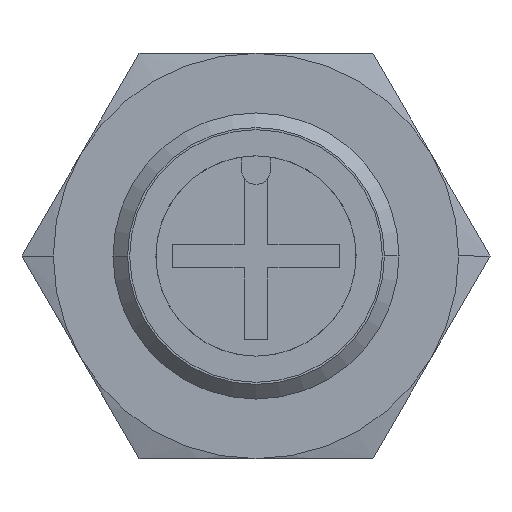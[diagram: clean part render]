
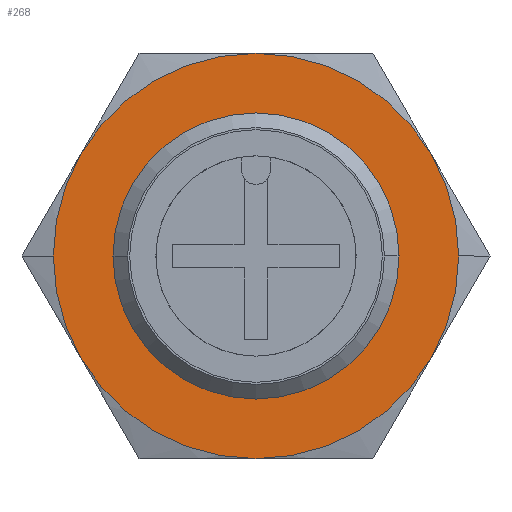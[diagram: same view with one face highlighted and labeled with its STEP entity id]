
A CAD part, left-side view. The second image highlights one B-rep face of the part: STEP entity #268.
In plain terms, the highlighted planar face has unit normal (-1, 0, 0).
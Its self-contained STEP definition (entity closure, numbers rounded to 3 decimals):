
#268 = ADVANCED_FACE( '', ( #503, #504 ), #505, .T. );
#503 = FACE_BOUND( '', #771, .T. );
#504 = FACE_OUTER_BOUND( '', #772, .T. );
#505 = PLANE( '', #773 );
#771 = EDGE_LOOP( '', ( #1567, #1568 ) );
#772 = EDGE_LOOP( '', ( #1569, #1570, #1571, #1572, #1573, #1574, #1575, #1576 ) );
#773 = AXIS2_PLACEMENT_3D( '', #1577, #1578, #1579 );
#1567 = ORIENTED_EDGE( '', *, *, #2022, .T. );
#1568 = ORIENTED_EDGE( '', *, *, #1960, .T. );
#1569 = ORIENTED_EDGE( '', *, *, #2018, .T. );
#1570 = ORIENTED_EDGE( '', *, *, #1971, .T. );
#1571 = ORIENTED_EDGE( '', *, *, #2013, .T. );
#1572 = ORIENTED_EDGE( '', *, *, #2014, .T. );
#1573 = ORIENTED_EDGE( '', *, *, #1973, .T. );
#1574 = ORIENTED_EDGE( '', *, *, #2015, .T. );
#1575 = ORIENTED_EDGE( '', *, *, #2016, .T. );
#1576 = ORIENTED_EDGE( '', *, *, #2017, .T. );
#1577 = CARTESIAN_POINT( '', ( 38.5, 4.25, 0. ) );
#1578 = DIRECTION( '', ( -1., 0., 0. ) );
#1579 = DIRECTION( '', ( 0., 1., 0. ) );
#1960 = EDGE_CURVE( '', #2354, #2351, #2355, .T. );
#1971 = EDGE_CURVE( '', #2370, #2372, #2374, .T. );
#1973 = EDGE_CURVE( '', #2378, #2375, #2379, .T. );
#2013 = EDGE_CURVE( '', #2372, #2398, #2441, .T. );
#2014 = EDGE_CURVE( '', #2398, #2378, #2442, .T. );
#2015 = EDGE_CURVE( '', #2375, #2429, #2443, .T. );
#2016 = EDGE_CURVE( '', #2429, #2421, #2444, .T. );
#2017 = EDGE_CURVE( '', #2421, #2408, #2445, .T. );
#2018 = EDGE_CURVE( '', #2408, #2370, #2446, .T. );
#2022 = EDGE_CURVE( '', #2351, #2354, #2450, .T. );
#2351 = VERTEX_POINT( '', #3037 );
#2354 = VERTEX_POINT( '', #3041 );
#2355 = CIRCLE( '', #3042, 6. );
#2370 = VERTEX_POINT( '', #3062 );
#2372 = VERTEX_POINT( '', #3065 );
#2374 = CIRCLE( '', #3076, 8.5 );
#2375 = VERTEX_POINT( '', #3077 );
#2378 = VERTEX_POINT( '', #3081 );
#2379 = CIRCLE( '', #3082, 8.5 );
#2398 = VERTEX_POINT( '', #3140 );
#2408 = VERTEX_POINT( '', #3188 );
#2421 = VERTEX_POINT( '', #3265 );
#2429 = VERTEX_POINT( '', #3310 );
#2441 = CIRCLE( '', #3359, 8.5 );
#2442 = CIRCLE( '', #3360, 8.5 );
#2443 = CIRCLE( '', #3361, 8.5 );
#2444 = CIRCLE( '', #3362, 8.5 );
#2445 = CIRCLE( '', #3363, 8.5 );
#2446 = CIRCLE( '', #3364, 8.5 );
#2450 = CIRCLE( '', #3368, 6. );
#3037 = CARTESIAN_POINT( '', ( 38.5, 6., 0. ) );
#3041 = CARTESIAN_POINT( '', ( 38.5, -6., 0. ) );
#3042 = AXIS2_PLACEMENT_3D( '', #3985, #3986, #3987 );
#3062 = CARTESIAN_POINT( '', ( 38.5, 8.5, 0. ) );
#3065 = CARTESIAN_POINT( '', ( 38.5, 7.361, -4.25 ) );
#3076 = AXIS2_PLACEMENT_3D( '', #4003, #4004, #4005 );
#3077 = CARTESIAN_POINT( '', ( 38.5, -8.5, 0. ) );
#3081 = CARTESIAN_POINT( '', ( 38.5, -7.361, -4.25 ) );
#3082 = AXIS2_PLACEMENT_3D( '', #4007, #4008, #4009 );
#3140 = CARTESIAN_POINT( '', ( 38.5, 0., -8.5 ) );
#3188 = CARTESIAN_POINT( '', ( 38.5, 7.361, 4.25 ) );
#3265 = CARTESIAN_POINT( '', ( 38.5, 0., 8.5 ) );
#3310 = CARTESIAN_POINT( '', ( 38.5, -7.361, 4.25 ) );
#3359 = AXIS2_PLACEMENT_3D( '', #4042, #4043, #4044 );
#3360 = AXIS2_PLACEMENT_3D( '', #4045, #4046, #4047 );
#3361 = AXIS2_PLACEMENT_3D( '', #4048, #4049, #4050 );
#3362 = AXIS2_PLACEMENT_3D( '', #4051, #4052, #4053 );
#3363 = AXIS2_PLACEMENT_3D( '', #4054, #4055, #4056 );
#3364 = AXIS2_PLACEMENT_3D( '', #4057, #4058, #4059 );
#3368 = AXIS2_PLACEMENT_3D( '', #4069, #4070, #4071 );
#3985 = CARTESIAN_POINT( '', ( 38.5, 0., 0. ) );
#3986 = DIRECTION( '', ( 1., 0., 0. ) );
#3987 = DIRECTION( '', ( 0., 1., 0. ) );
#4003 = CARTESIAN_POINT( '', ( 38.5, 0., 0. ) );
#4004 = DIRECTION( '', ( -1., 0., 0. ) );
#4005 = DIRECTION( '', ( 0., 1., 0. ) );
#4007 = CARTESIAN_POINT( '', ( 38.5, 0., 0. ) );
#4008 = DIRECTION( '', ( -1., 0., 0. ) );
#4009 = DIRECTION( '', ( 0., 1., 0. ) );
#4042 = CARTESIAN_POINT( '', ( 38.5, 0., 0. ) );
#4043 = DIRECTION( '', ( -1., 0., 0. ) );
#4044 = DIRECTION( '', ( 0., 1., 0. ) );
#4045 = CARTESIAN_POINT( '', ( 38.5, 0., 0. ) );
#4046 = DIRECTION( '', ( -1., 0., 0. ) );
#4047 = DIRECTION( '', ( 0., 1., 0. ) );
#4048 = CARTESIAN_POINT( '', ( 38.5, 0., 0. ) );
#4049 = DIRECTION( '', ( -1., 0., 0. ) );
#4050 = DIRECTION( '', ( 0., 1., 0. ) );
#4051 = CARTESIAN_POINT( '', ( 38.5, 0., 0. ) );
#4052 = DIRECTION( '', ( -1., 0., 0. ) );
#4053 = DIRECTION( '', ( 0., 1., 0. ) );
#4054 = CARTESIAN_POINT( '', ( 38.5, 0., 0. ) );
#4055 = DIRECTION( '', ( -1., 0., 0. ) );
#4056 = DIRECTION( '', ( 0., 1., 0. ) );
#4057 = CARTESIAN_POINT( '', ( 38.5, 0., 0. ) );
#4058 = DIRECTION( '', ( -1., 0., 0. ) );
#4059 = DIRECTION( '', ( 0., 1., 0. ) );
#4069 = CARTESIAN_POINT( '', ( 38.5, 0., 0. ) );
#4070 = DIRECTION( '', ( 1., 0., 0. ) );
#4071 = DIRECTION( '', ( 0., 1., 0. ) );
